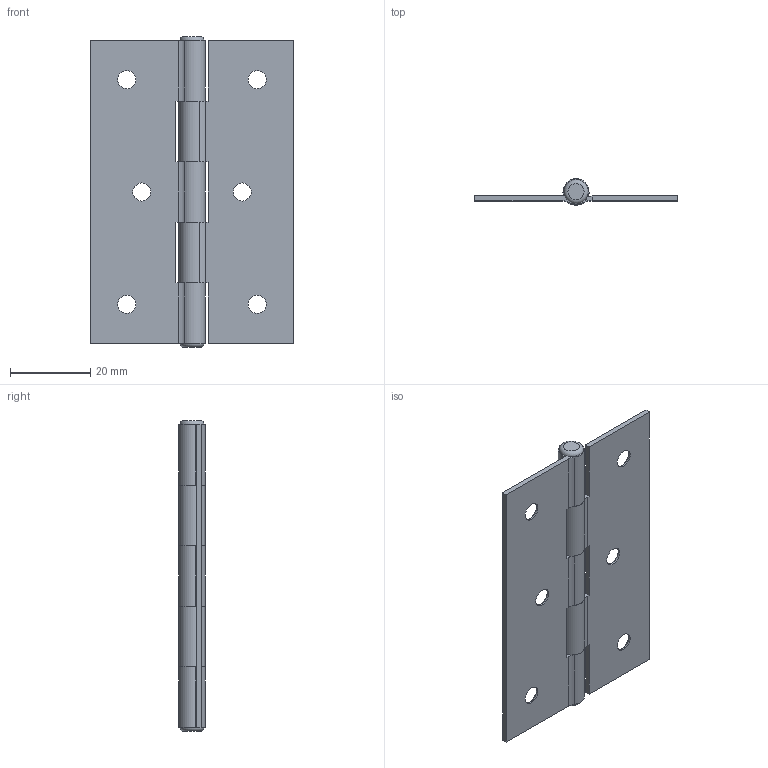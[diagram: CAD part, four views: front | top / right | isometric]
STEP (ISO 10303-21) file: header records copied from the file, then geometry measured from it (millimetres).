
FILE_DESCRIPTION(/* description */ (''),/* implementation_level */ '2;1');
FILE_NAME(/* name */ '\\NAS\db20\HH7550-12\DR_HH7550-12.stp',/* time_stamp */ '2017-08-16T08:30:56+09:00',/* author */ ('user'),/* organization */ (''),/* preprocessor_version */ 'ST-DEVELOPER v15.6',/* originating_system */ 'Autodesk Inventor 2015',/* authorisation */ '');
FILE_SCHEMA (('AUTOMOTIVE_DESIGN { 1 0 10303 214 3 1 1 }'));
Length unit declared in the file: millimetre
Products named in the file (1): DR_HH7550-12
Bounding box: 50.5 x 6.49 x 77.5 mm (x, y, z)
Volume: 6336.4 mm3; surface area: 10675.7 mm2
Topology: 3 solids, 3 shells, 67 faces, 177 edges, 118 vertices
Faces by surface type: plane 32, cylinder 27, cone 6, torus 2
Full cylindrical faces by diameter (mm): 4.1 x1, 4.5 x6
Entity records: 2012 total; most frequent: DIRECTION 356, CARTESIAN_POINT 336, ORIENTED_EDGE 312, EDGE_CURVE 156, AXIS2_PLACEMENT_3D 132, VERTEX_POINT 112, EDGE_LOOP 96, LINE 92
